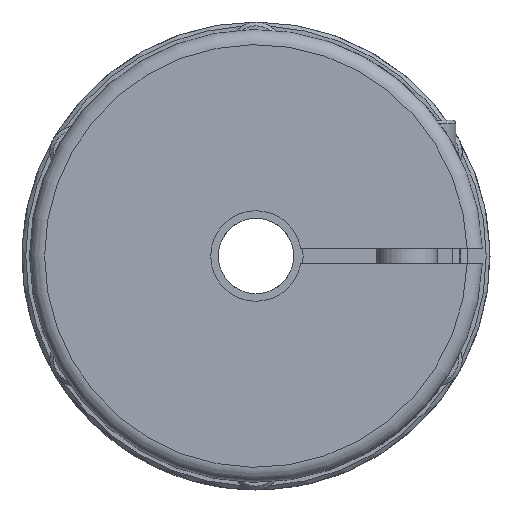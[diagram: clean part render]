
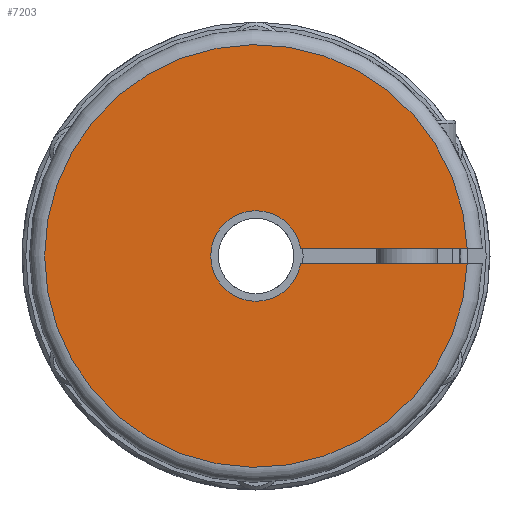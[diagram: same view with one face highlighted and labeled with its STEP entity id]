
A CAD part, left-side view. The second image highlights one B-rep face of the part: STEP entity #7203.
In plain terms, the highlighted planar face has unit normal (-1, 0, 0).
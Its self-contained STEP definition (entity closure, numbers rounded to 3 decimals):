
#254=PLANE('',#7693);
#756=LINE('',#11611,#1056);
#762=LINE('',#11661,#1062);
#1056=VECTOR('',#8806,1000.);
#1062=VECTOR('',#8816,1000.);
#2475=ORIENTED_EDGE('',*,*,#3306,.F.);
#2476=ORIENTED_EDGE('',*,*,#3365,.T.);
#2477=ORIENTED_EDGE('',*,*,#3319,.F.);
#2478=ORIENTED_EDGE('',*,*,#3324,.T.);
#3306=EDGE_CURVE('',#3860,#3861,#756,.T.);
#3319=EDGE_CURVE('',#3872,#3867,#762,.T.);
#3324=EDGE_CURVE('',#3872,#3861,#4131,.T.);
#3365=EDGE_CURVE('',#3860,#3867,#4156,.T.);
#3860=VERTEX_POINT('',#11610);
#3861=VERTEX_POINT('',#11612);
#3867=VERTEX_POINT('',#11638);
#3872=VERTEX_POINT('',#11660);
#4131=CIRCLE('',#7657,28.);
#4156=CIRCLE('',#7694,6.);
#4529=EDGE_LOOP('',(#2475,#2476,#2477,#2478));
#4936=FACE_BOUND('',#4529,.T.);
#7203=ADVANCED_FACE('',(#4936),#254,.T.);
#7657=AXIS2_PLACEMENT_3D('',#11712,#8825,#8826);
#7693=AXIS2_PLACEMENT_3D('',#11792,#8913,#8914);
#7694=AXIS2_PLACEMENT_3D('',#11793,#8915,#8916);
#8806=DIRECTION('',(0.,-1.,0.));
#8816=DIRECTION('',(0.,1.,0.));
#8825=DIRECTION('',(-1.,0.,0.));
#8826=DIRECTION('',(0.,0.,1.));
#8913=DIRECTION('',(-1.,0.,0.));
#8914=DIRECTION('',(0.,0.,1.));
#8915=DIRECTION('',(1.,0.,0.));
#8916=DIRECTION('',(0.,-1.,0.));
#11610=CARTESIAN_POINT('',(0.,-5.916,-1.));
#11611=CARTESIAN_POINT('',(0.,-1.137,-1.));
#11612=CARTESIAN_POINT('',(0.,-27.982,-1.));
#11638=CARTESIAN_POINT('',(0.,-5.916,1.));
#11660=CARTESIAN_POINT('',(0.,-27.982,1.));
#11661=CARTESIAN_POINT('',(0.,-39.211,1.));
#11712=CARTESIAN_POINT('',(0.,0.,0.));
#11792=CARTESIAN_POINT('',(0.,0.,0.));
#11793=CARTESIAN_POINT('',(0.,0.,0.));
